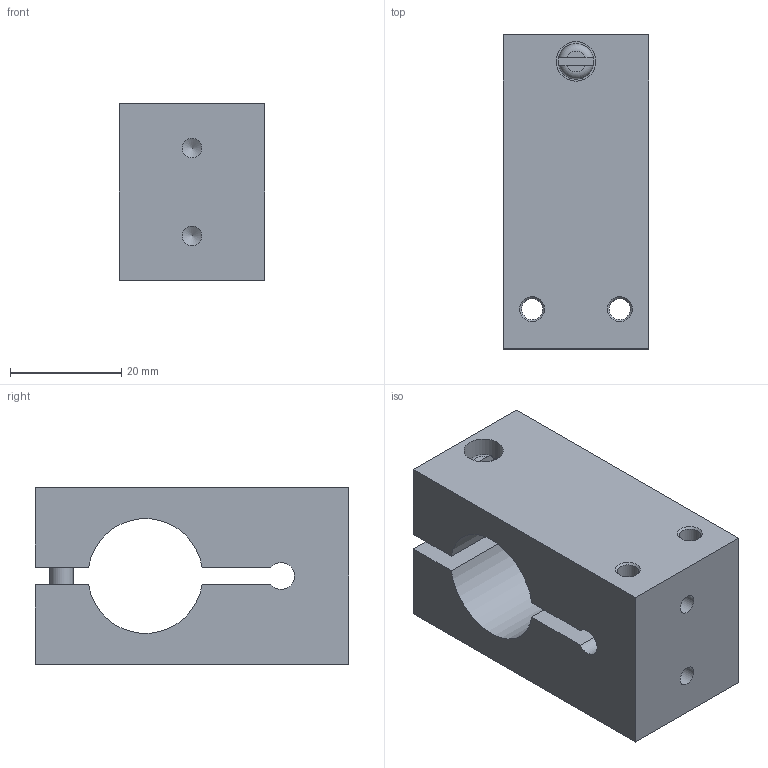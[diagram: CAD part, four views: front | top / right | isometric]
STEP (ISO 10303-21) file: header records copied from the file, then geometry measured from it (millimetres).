
FILE_DESCRIPTION(/* description */ (''),/* implementation_level */ '2;1');
FILE_NAME(/* name */ 'A:\CAD Drawings\LVDT\3D\Accessories\LVDT-MTD-750-DEL\LVDT-MTD-812 Phenolic.stp',/* time_stamp */ '2020-05-01T18:22:24-04:00',/* author */ ('Justin'),/* organization */ (''),/* preprocessor_version */ 'ST-DEVELOPER v18.1',/* originating_system */ 'Autodesk Inventor 2021',/* authorisation */ '');
FILE_SCHEMA (('AUTOMOTIVE_DESIGN { 1 0 10303 214 3 1 1 }'));
Length unit declared in the file: inch
Products named in the file (3): LVDT-MTD-812 Phenolic; LVDT-MTD-812; #1437
Assembly tree (2 placements, depth 2):
  LVDT-MTD-812 Phenolic
    LVDT-MTD-812
    #1437
Bounding box: 26.16 x 56.39 x 31.75 mm (x, y, z)
Volume: 34770 mm3; surface area: 12015.9 mm2
Topology: 2 solids, 2 shells, 40 faces, 107 edges, 73 vertices
Faces by surface type: plane 19, cylinder 12, cone 7, torus 2
Full cylindrical faces by diameter (mm): 3.505 x2, 3.81 x2, 4.166 x2, 4.318 x1, 6.35 x1, 7.112 x1
Entity records: 1428 total; most frequent: CARTESIAN_POINT 259, DIRECTION 238, ORIENTED_EDGE 210, EDGE_CURVE 105, AXIS2_PLACEMENT_3D 92, VERTEX_POINT 73, LINE 54, VECTOR 54
